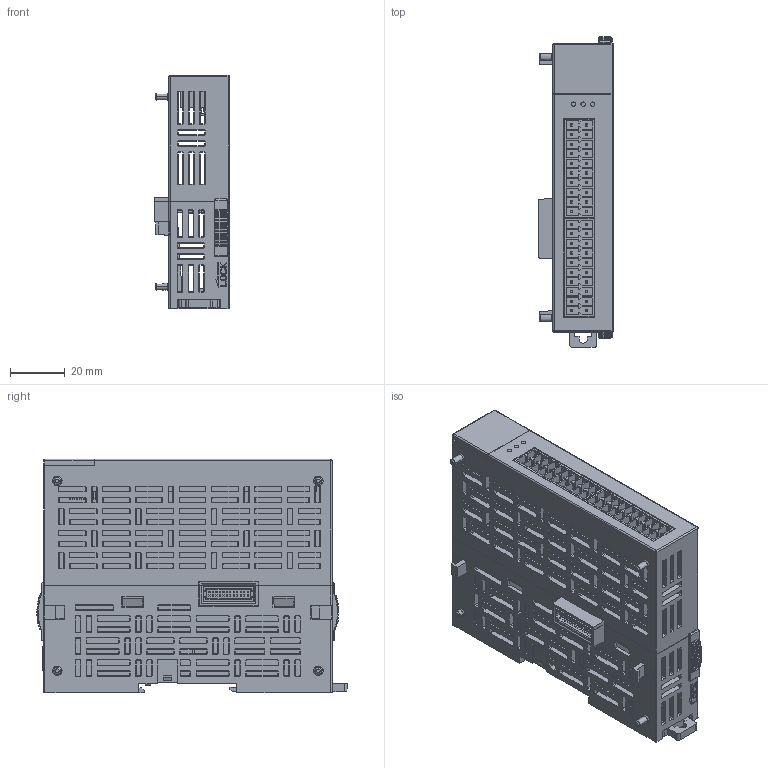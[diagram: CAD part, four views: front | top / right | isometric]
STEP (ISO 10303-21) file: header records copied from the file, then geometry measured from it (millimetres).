
FILE_DESCRIPTION((''),'2;1');
FILE_NAME('MS-32MK-Y_ASM','2022-03-29T11:46:51',('Lenovo'),(''),'CREO PARAMETRIC BY PTC INC, 2020033','CREO PARAMETRIC BY PTC INC, 2020033','');
FILE_SCHEMA(('CONFIG_CONTROL_DESIGN'));
Products named in the file (20): MS-32MK-BASE-Y; MS-32MK-COVER-Y; LED-PCB; LED; 20PIN-CHAZUO; CBT-0810XXM-52-20PIN; LED-PCB_ASM; MS-32MK-PCB-Y; JIEXIANDUANZI-CHAZUO-10PIN; BOX127-H570-20PIN; 24PIN-CHATOU-NEW; 24PIN-CHAZUO-NEW; CBT-0810XXF-52-20PIN; MS-32MK-PCB-Y_ASM; KAKOU-MK; MS-32MK-JINGPIAN; MS-32MK-DGZ; MS2-32A4-XIAOGAIBAN; MS2-32A4-MKGDK; MS-32MK-Y_ASM
Assembly tree (55 placements, depth 3):
  MS-32MK-Y_ASM
    MS-32MK-BASE-Y
    MS-32MK-COVER-Y
    LED-PCB_ASM
      LED-PCB
      LED  x35
      20PIN-CHAZUO
      CBT-0810XXM-52-20PIN
    MS-32MK-PCB-Y_ASM
      MS-32MK-PCB-Y
      JIEXIANDUANZI-CHAZUO-10PIN  x2
      BOX127-H570-20PIN
      24PIN-CHATOU-NEW
      24PIN-CHAZUO-NEW
      CBT-0810XXF-52-20PIN
    KAKOU-MK
    MS-32MK-JINGPIAN
    MS-32MK-DGZ
    MS2-32A4-XIAOGAIBAN
    MS2-32A4-MKGDK  x2
Bounding box: 27.2 x 112.94 x 85 mm (x, y, z)
Volume: 64326.2 mm3; surface area: 89544.7 mm2
Topology: 53 solids, 53 shells, 7061 faces, 18655 edges, 12106 vertices
Faces by surface type: plane 5691, cone 991, cylinder 295, torus 32, extrusion 28, bspline 20, sphere 4
Entity records: 190169 total; most frequent: CARTESIAN_POINT 36645, ORIENTED_EDGE 32504, DIRECTION 29792, EDGE_CURVE 16252, VECTOR 13640, LINE 13626, VERTEX_POINT 10564, AXIS2_PLACEMENT_3D 8076
